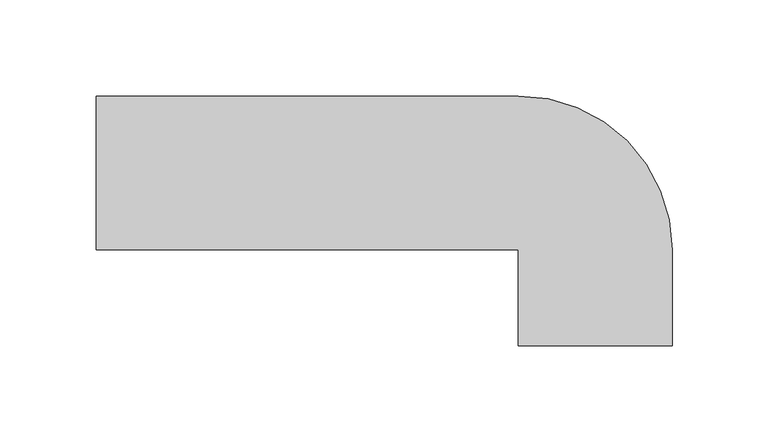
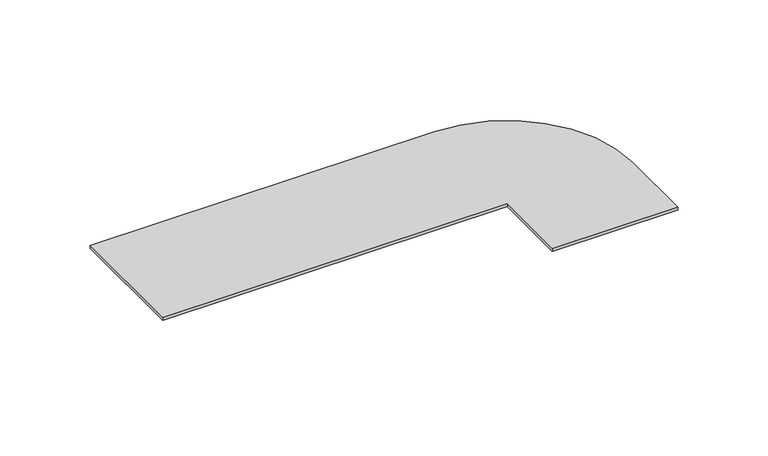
"""IFC4 building model written with IfcOpenShell, lengths in millimetres: duct fitting geometry, Накладка на стык со стеной - для кабель-каналов шириной от 195 до 220 мм : Накладка на стык со стеной - для кабель-каналов шириной от 195 до 220 мм."""

from ifc_helpers import new_model, si_unit, point, frame_2d, origin, origin_with_axes, place, context, project, spatial, polyline, circle_curve, trimmed, segment, composite_curve, outline, extrude, source, transform, mapped, element, save


def duct_fitting_7d56ec52(model_context):
    return source(origin(), model_context, "Body", "SweptSolid", [
        extrude(outline(composite_curve([segment(polyline([(-110.0, 105.0), (110.0, 105.0)]), True, "CONTINUOUS"), segment(trimmed(circle_curve(frame_2d((110.0, 25.0)), 80.0), [point((110.0, 105.0))], [point((190.0, 25.0))], False, "CARTESIAN"), True, "CONTINUOUS"), segment(polyline([(190.0, 25.0), (190.0, -25.0), (110.0, -25.0), (110.0, 25.0), (-110.0, 25.0), (-110.0, 105.0)]), True, "CONTINUOUS")], self_intersect=False)), origin_with_axes(), (0.0, 0.0, 1.0), 2.0),
    ])


if __name__ == "__main__":
    model = new_model("IFC4")
    model_context = context("Model", 3, world=origin())
    ifc_project = project(units=[si_unit("LENGTHUNIT", "METRE", prefix="MILLI")], contexts=[model_context])
    site = spatial("IfcSite", under=ifc_project)
    building = spatial("IfcBuilding", under=site)
    placement = place(None, origin())
    duct_fitting_shape = duct_fitting_7d56ec52(model_context)
    element("IfcDuctFitting", 1, ObjectType="Накладка на стык со стеной - для кабель-каналов шириной от 195 до 220 мм : Накладка на стык со стеной - для кабель-каналов шириной от 195 до 220 мм", at=placement, inside=building, context=model_context, shape_type="MappedRepresentation", body=[
        mapped(duct_fitting_shape, transform((0.0, 0.0, 0.0), x_axis=(1.0, 0.0, 0.0), y_axis=(0.0, 1.0, 0.0), z_axis=(0.0, 0.0, 1.0))),
    ])
    save(model, "model.ifc")
